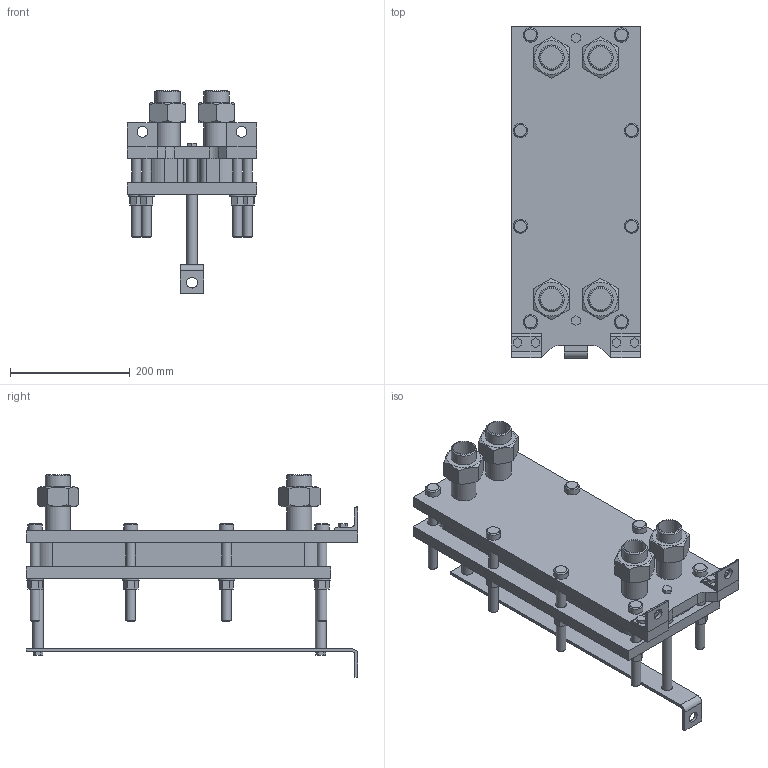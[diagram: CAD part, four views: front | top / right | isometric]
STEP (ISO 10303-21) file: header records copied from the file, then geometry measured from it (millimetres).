
FILE_DESCRIPTION(/* description */ (''),/* implementation_level */ '2;1');
FILE_NAME(/* name */ 'C:\Users\zhuro\Desktop\ENCO\TO\ЭН-004\ЭН-0,5-004-13-1.stp',/* time_stamp */ '2022-06-06T10:44:51+03:00',/* author */ ('zhuro'),/* organization */ (''),/* preprocessor_version */ 'ST-DEVELOPER v18.1',/* originating_system */ 'Autodesk Inventor 2022',/* authorisation */ '');
FILE_SCHEMA (('AUTOMOTIVE_DESIGN { 1 0 10303 214 3 1 1 }'));
Length unit declared in the file: millimetre
Products named in the file (1): ЭН-0,5-004-13-1
Bounding box: 216 x 555 x 339.4 mm (x, y, z)
Volume: 8471450.2 mm3; surface area: 1046429.4 mm2
Topology: 40 solids, 40 shells, 403 faces, 865 edges, 574 vertices
Faces by surface type: plane 272, cylinder 103, cone 28
Full cylindrical faces by diameter (mm): 10 x4, 16 x16, 18 x29, 20 x2, 24 x8, 28 x8, 36.3 x5, 42.3 x9
Entity records: 11137 total; most frequent: CARTESIAN_POINT 1939, DIRECTION 1879, ORIENTED_EDGE 1730, EDGE_CURVE 865, AXIS2_PLACEMENT_3D 658, VERTEX_POINT 574, LINE 563, VECTOR 563
